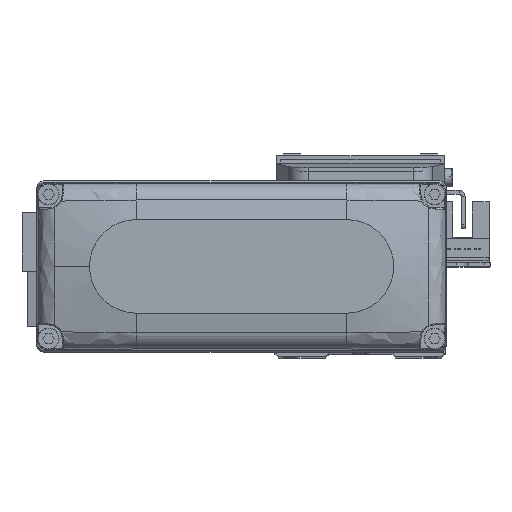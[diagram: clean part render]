
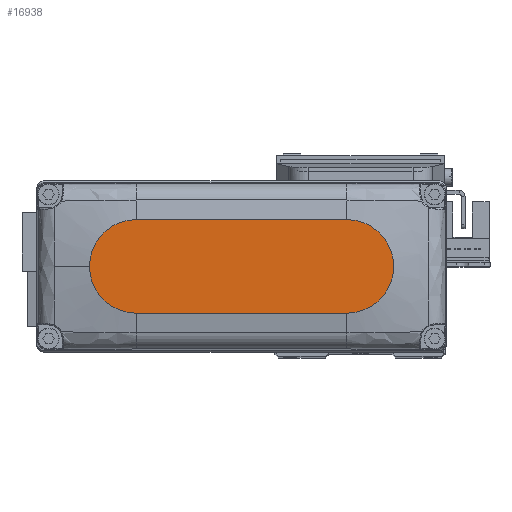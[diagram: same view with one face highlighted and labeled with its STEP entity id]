
A CAD part, top view. The second image highlights one B-rep face of the part: STEP entity #16938.
In plain terms, the highlighted planar face has unit normal (0, 0, 1).
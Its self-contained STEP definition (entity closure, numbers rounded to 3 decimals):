
#1246 = DIRECTION ( 'NONE',  ( 0., 0., 1. ) ) ;
#1322 = DIRECTION ( 'NONE',  ( -1., 0., 0. ) ) ;
#1857 = VERTEX_POINT ( 'NONE', #21672 ) ;
#4240 = DIRECTION ( 'NONE',  ( 0., 0., 1. ) ) ;
#4577 = CARTESIAN_POINT ( 'NONE',  ( 27., 0., 25. ) ) ;
#4790 = EDGE_LOOP ( 'NONE', ( #26284, #29422, #31924, #5566, #15535 ) ) ;
#5566 = ORIENTED_EDGE ( 'NONE', *, *, #10973, .T. ) ;
#6909 = CARTESIAN_POINT ( 'NONE',  ( 39., 0., 25. ) ) ;
#7371 = DIRECTION ( 'NONE',  ( 0., 0., 1. ) ) ;
#7487 = CIRCLE ( 'NONE', #29688, 12. ) ;
#9406 = EDGE_CURVE ( 'NONE', #33510, #20579, #7487, .T. ) ;
#10359 = FACE_OUTER_BOUND ( 'NONE', #4790, .T. ) ;
#10973 = EDGE_CURVE ( 'NONE', #1857, #33497, #13287, .T. ) ;
#11292 = LINE ( 'NONE', #23425, #30963 ) ;
#11359 = VECTOR ( 'NONE', #1322, 1000. ) ;
#13287 = CIRCLE ( 'NONE', #35504, 12. ) ;
#13349 = DIRECTION ( 'NONE',  ( 1., 0., 0. ) ) ;
#13464 = EDGE_CURVE ( 'NONE', #33497, #31989, #34126, .T. ) ;
#15535 = ORIENTED_EDGE ( 'NONE', *, *, #13464, .T. ) ;
#16044 = CARTESIAN_POINT ( 'NONE',  ( -27., 12., 25. ) ) ;
#16357 = DIRECTION ( 'NONE',  ( 1., 0., 0. ) ) ;
#16405 = LINE ( 'NONE', #28537, #11359 ) ;
#16691 = DIRECTION ( 'NONE',  ( 0., 0., 1. ) ) ;
#16938 = ADVANCED_FACE ( 'NONE', ( #10359 ), #22481, .T. ) ;
#17016 = AXIS2_PLACEMENT_3D ( 'NONE', #31448, #4240, #16357 ) ;
#18730 = EDGE_CURVE ( 'NONE', #20579, #1857, #11292, .T. ) ;
#19486 = DIRECTION ( 'NONE',  ( 1., 0., 0. ) ) ;
#20579 = VERTEX_POINT ( 'NONE', #28124 ) ;
#21672 = CARTESIAN_POINT ( 'NONE',  ( 27., -12., 25. ) ) ;
#22481 = PLANE ( 'NONE',  #32997 ) ;
#23425 = CARTESIAN_POINT ( 'NONE',  ( -27., -12., 25. ) ) ;
#26284 = ORIENTED_EDGE ( 'NONE', *, *, #38682, .T. ) ;
#28124 = CARTESIAN_POINT ( 'NONE',  ( -27., -12., 25. ) ) ;
#28460 = CARTESIAN_POINT ( 'NONE',  ( -27., 0., 25. ) ) ;
#28537 = CARTESIAN_POINT ( 'NONE',  ( -27., 12., 25. ) ) ;
#28814 = DIRECTION ( 'NONE',  ( 1., 0., 0. ) ) ;
#29422 = ORIENTED_EDGE ( 'NONE', *, *, #9406, .T. ) ;
#29688 = AXIS2_PLACEMENT_3D ( 'NONE', #28460, #1246, #13349 ) ;
#30963 = VECTOR ( 'NONE', #35538, 1000. ) ;
#31448 = CARTESIAN_POINT ( 'NONE',  ( 27., 0., 25. ) ) ;
#31924 = ORIENTED_EDGE ( 'NONE', *, *, #18730, .T. ) ;
#31989 = VERTEX_POINT ( 'NONE', #38309 ) ;
#32997 = AXIS2_PLACEMENT_3D ( 'NONE', #34580, #7371, #19486 ) ;
#33497 = VERTEX_POINT ( 'NONE', #6909 ) ;
#33510 = VERTEX_POINT ( 'NONE', #16044 ) ;
#34126 = CIRCLE ( 'NONE', #17016, 12. ) ;
#34580 = CARTESIAN_POINT ( 'NONE',  ( 0., 0., 25. ) ) ;
#35504 = AXIS2_PLACEMENT_3D ( 'NONE', #4577, #16691, #28814 ) ;
#35538 = DIRECTION ( 'NONE',  ( 1., 0., 0. ) ) ;
#38309 = CARTESIAN_POINT ( 'NONE',  ( 27., 12., 25. ) ) ;
#38682 = EDGE_CURVE ( 'NONE', #31989, #33510, #16405, .T. ) ;
